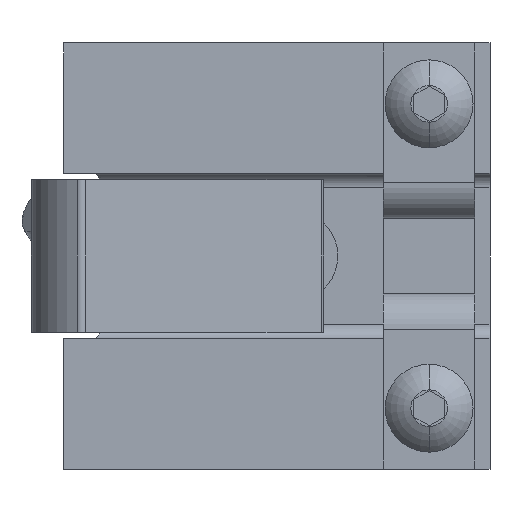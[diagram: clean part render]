
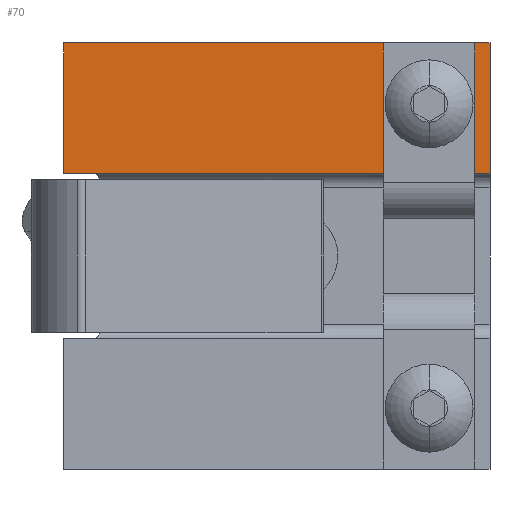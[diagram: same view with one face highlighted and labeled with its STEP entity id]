
A CAD part, left-side view. The second image highlights one B-rep face of the part: STEP entity #70.
In plain terms, the highlighted planar face has unit normal (-1, 0, 0).
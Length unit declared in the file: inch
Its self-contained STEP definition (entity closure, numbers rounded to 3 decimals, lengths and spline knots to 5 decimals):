
#1 = ORIENTED_EDGE ( 'NONE', *, *, #52, .T. ) ;
#52 = EDGE_CURVE ( 'NONE', #77, #53, #4577, .T. ) ;
#53 = VERTEX_POINT ( 'NONE', #4573 ) ;
#54 = ORIENTED_EDGE ( 'NONE', *, *, #55, .F. ) ;
#55 = EDGE_CURVE ( 'NONE', #56, #53, #4572, .T. ) ;
#56 = VERTEX_POINT ( 'NONE', #4568 ) ;
#57 = ORIENTED_EDGE ( 'NONE', *, *, #58, .F. ) ;
#58 = EDGE_CURVE ( 'NONE', #78, #56, #4566, .T. ) ;
#69 = EDGE_CURVE ( 'NONE', #30216, #30213, #4586, .T. ) ;
#70 = ADVANCED_FACE ( 'NONE', ( #4629, #4628 ), #4610, .T. ) ;
#71 = EDGE_LOOP ( 'NONE', ( #72, #73 ) ) ;
#72 = ORIENTED_EDGE ( 'NONE', *, *, #69, .F. ) ;
#73 = ORIENTED_EDGE ( 'NONE', *, *, #30215, .F. ) ;
#74 = EDGE_LOOP ( 'NONE', ( #75, #1, #54, #57 ) ) ;
#75 = ORIENTED_EDGE ( 'NONE', *, *, #76, .F. ) ;
#76 = EDGE_CURVE ( 'NONE', #77, #78, #4664, .T. ) ;
#77 = VERTEX_POINT ( 'NONE', #4660 ) ;
#78 = VERTEX_POINT ( 'NONE', #4659 ) ;
#4563 = DIRECTION ( 'NONE',  ( 0., 0., 1. ) ) ;
#4564 = VECTOR ( 'NONE', #4563, 39.37008 ) ;
#4565 = CARTESIAN_POINT ( 'NONE',  ( -0.7659, 0.88206, -0.93737 ) ) ;
#4566 = LINE ( 'NONE', #4565, #4564 ) ;
#4568 = CARTESIAN_POINT ( 'NONE',  ( -0.7659, 0.88206, 0.81263 ) ) ;
#4569 = DIRECTION ( 'NONE',  ( 0., -1., 0. ) ) ;
#4570 = VECTOR ( 'NONE', #4569, 39.37008 ) ;
#4571 = CARTESIAN_POINT ( 'NONE',  ( -0.7659, -0.86794, 0.81263 ) ) ;
#4572 = LINE ( 'NONE', #4571, #4570 ) ;
#4573 = CARTESIAN_POINT ( 'NONE',  ( -0.7659, -0.86794, 0.81263 ) ) ;
#4574 = DIRECTION ( 'NONE',  ( 0., 0., 1. ) ) ;
#4575 = VECTOR ( 'NONE', #4574, 39.37008 ) ;
#4576 = CARTESIAN_POINT ( 'NONE',  ( -0.7659, -0.86794, -0.93737 ) ) ;
#4577 = LINE ( 'NONE', #4576, #4575 ) ;
#4584 = CARTESIAN_POINT ( 'NONE',  ( -0.7659, -0.61794, 0.56263 ) ) ;
#4585 = AXIS2_PLACEMENT_3D ( 'NONE', #4584, #4631, #4630 ) ;
#4586 = CIRCLE ( 'NONE', #4585, 0.09375 ) ;
#4606 = DIRECTION ( 'NONE',  ( 0., 0., 1. ) ) ;
#4607 = DIRECTION ( 'NONE',  ( -1., 0., 0. ) ) ;
#4608 = CARTESIAN_POINT ( 'NONE',  ( -0.7659, -0.86794, -0.93737 ) ) ;
#4609 = AXIS2_PLACEMENT_3D ( 'NONE', #4608, #4607, #4606 ) ;
#4610 = PLANE ( 'NONE',  #4609 ) ;
#4628 = FACE_OUTER_BOUND ( 'NONE', #74, .T. ) ;
#4629 = FACE_BOUND ( 'NONE', #71, .T. ) ;
#4630 = DIRECTION ( 'NONE',  ( 0., 0., 1. ) ) ;
#4631 = DIRECTION ( 'NONE',  ( -1., 0., 0. ) ) ;
#4659 = CARTESIAN_POINT ( 'NONE',  ( -0.7659, 0.88206, 0.27763 ) ) ;
#4660 = CARTESIAN_POINT ( 'NONE',  ( -0.7659, -0.86794, 0.27763 ) ) ;
#4661 = DIRECTION ( 'NONE',  ( 0., 1., 0. ) ) ;
#4662 = VECTOR ( 'NONE', #4661, 39.37008 ) ;
#4663 = CARTESIAN_POINT ( 'NONE',  ( -0.7659, -0.86794, 0.27763 ) ) ;
#4664 = LINE ( 'NONE', #4663, #4662 ) ;
#22723 = CARTESIAN_POINT ( 'NONE',  ( -0.7659, -0.61794, 0.65638 ) ) ;
#22724 = DIRECTION ( 'NONE',  ( 0., 0., 1. ) ) ;
#22725 = DIRECTION ( 'NONE',  ( -1., 0., 0. ) ) ;
#22726 = CARTESIAN_POINT ( 'NONE',  ( -0.7659, -0.61794, 0.56263 ) ) ;
#22727 = AXIS2_PLACEMENT_3D ( 'NONE', #22726, #22725, #22724 ) ;
#22728 = CIRCLE ( 'NONE', #22727, 0.09375 ) ;
#22729 = CARTESIAN_POINT ( 'NONE',  ( -0.7659, -0.61794, 0.46888 ) ) ;
#30213 = VERTEX_POINT ( 'NONE', #22729 ) ;
#30215 = EDGE_CURVE ( 'NONE', #30213, #30216, #22728, .T. ) ;
#30216 = VERTEX_POINT ( 'NONE', #22723 ) ;
